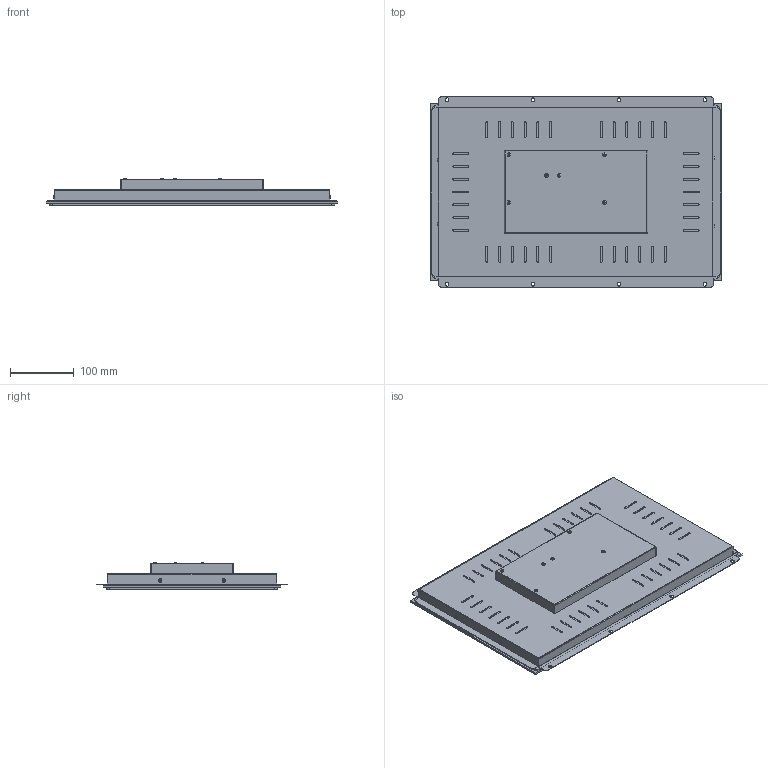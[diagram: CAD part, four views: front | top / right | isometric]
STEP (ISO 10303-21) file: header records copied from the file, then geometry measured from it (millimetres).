
FILE_DESCRIPTION(/* description */ (''),/* implementation_level */ '2;1');
FILE_NAME(/* name */ 'C:/Users/Klaus Malinowski/Documents/Elfin/Designs/18.5_Baugruppe v10.step',/* time_stamp */ '2022-06-22T14:00:09+02:00',/* author */ (''),/* organization */ (''),/* preprocessor_version */ 'ST-DEVELOPER v19',/* originating_system */ 'Autodesk Translation Framework v11.7.0.108',/* authorisation */ '');
FILE_SCHEMA (('AUTOMOTIVE_DESIGN { 1 0 10303 214 3 1 1 }'));
Length unit declared in the file: millimetre
Products named in the file (6): 18.5_Baugruppe; tst2; 18.5 UT_1; Higgstec_TouchGlass; 18.5" Glas Schäfer; HI_Screw ISO 7380-1 M3x6 51030.030.006(High)
Assembly tree (14 placements, depth 2):
  18.5_Baugruppe
    tst2
    18.5 UT_1
    HI_Screw ISO 7380-1 M3x6 51030.030.006(High)  x10
    Higgstec_TouchGlass
    18.5" Glas Schäfer
Bounding box: 458.5 x 300 x 43.91 mm (x, y, z)
Volume: 586072.7 mm3; surface area: 736011.9 mm2
Topology: 15 solids, 15 shells, 604 faces, 1433 edges, 880 vertices
Faces by surface type: plane 343, cylinder 161, cone 80, torus 10, bspline 10
Full cylindrical faces by diameter (mm): 1.5 x1, 3 x10, 3.8 x2, 4 x8, 6 x8
Entity records: 13316 total; most frequent: DIRECTION 2272, CARTESIAN_POINT 2255, ORIENTED_EDGE 2180, EDGE_CURVE 1090, LINE 766, VECTOR 766, AXIS2_PLACEMENT_3D 753, VERTEX_POINT 691
